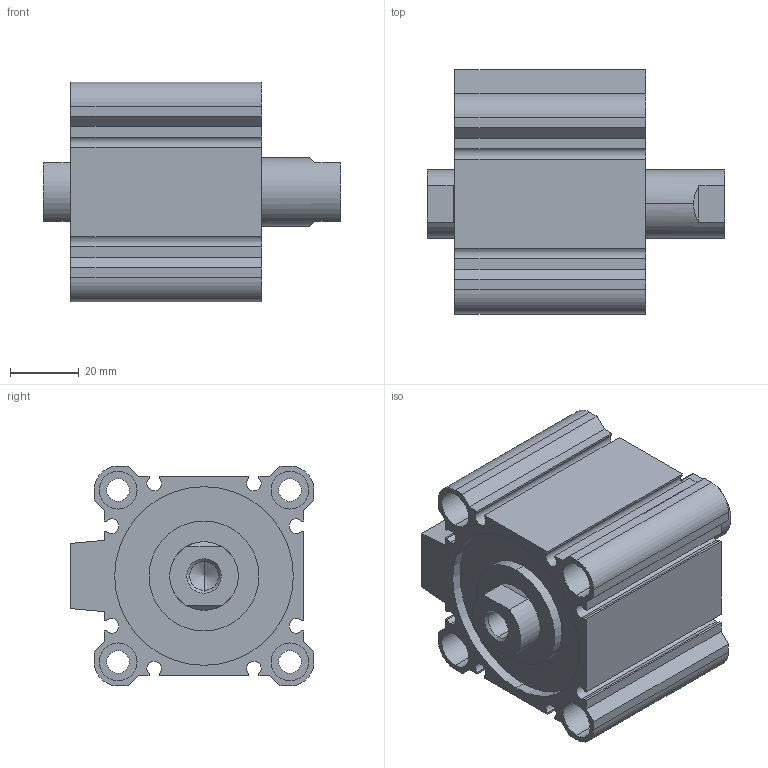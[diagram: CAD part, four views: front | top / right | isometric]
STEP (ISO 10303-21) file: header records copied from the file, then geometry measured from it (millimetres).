
FILE_DESCRIPTION (( 'STEP AP203' ), '1' );
FILE_NAME ('CCMB50-15F-P.STEP', '2020-08-05T11:26:39', ( '' ), ( '' ), 'SwSTEP 2.0', 'SolidWorks 2019', '' );
FILE_SCHEMA (( 'CONFIG_CONTROL_DESIGN' ));
Length unit declared in the file: millimetre
Products named in the file (1): CCMB50-15F-P
Bounding box: 86.5 x 71 x 64 mm (x, y, z)
Volume: 163501.3 mm3; surface area: 55043.6 mm2
Topology: 2 solids, 2 shells, 164 faces, 414 edges, 270 vertices
Faces by surface type: plane 78, cylinder 74, cone 12
Entity records: 5025 total; most frequent: DIRECTION 888, CARTESIAN_POINT 869, ORIENTED_EDGE 820, EDGE_CURVE 410, AXIS2_PLACEMENT_3D 321, VERTEX_POINT 270, VECTOR 246, LINE 246
